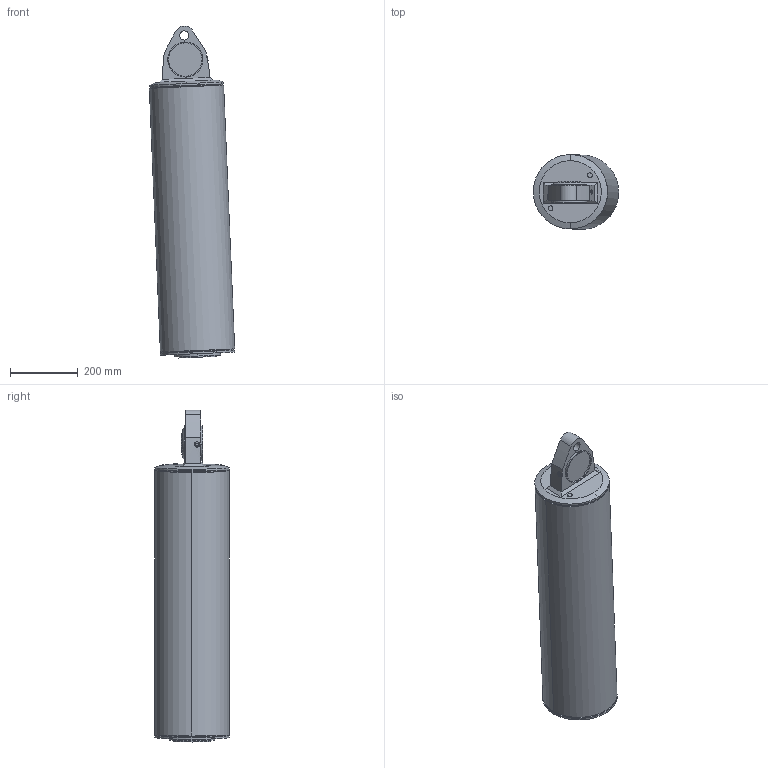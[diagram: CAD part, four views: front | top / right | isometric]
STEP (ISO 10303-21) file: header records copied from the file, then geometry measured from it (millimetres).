
FILE_DESCRIPTION (( 'STEP AP214' ), '1' );
FILE_NAME ('IRB7710_360kg-330_OC_00_CYL_CAD.STEP', '2023-09-26T08:45:17', ( '' ), ( '' ), 'SwSTEP 2.0', 'SolidWorks 2022', '' );
FILE_SCHEMA (( 'AUTOMOTIVE_DESIGN' ));
Length unit declared in the file: millimetre
Products named in the file (1): IRB7710_360kg-330_OC_00_CYL_CAD
Bounding box: 253.25 x 220 x 982.48 mm (x, y, z)
Volume: 25304065.8 mm3; surface area: 948003.3 mm2
Topology: 1 solids, 1 shells, 110 faces, 256 edges, 166 vertices
Faces by surface type: cylinder 42, cone 32, plane 32, torus 2, sphere 2
Entity records: 3497 total; most frequent: CARTESIAN_POINT 827, DIRECTION 576, ORIENTED_EDGE 512, EDGE_CURVE 256, AXIS2_PLACEMENT_3D 241, VERTEX_POINT 166, CIRCLE 130, EDGE_LOOP 130
